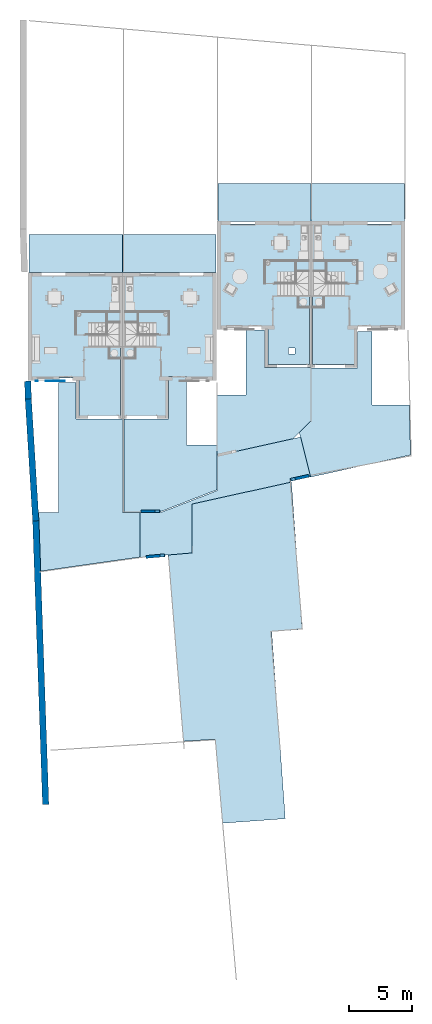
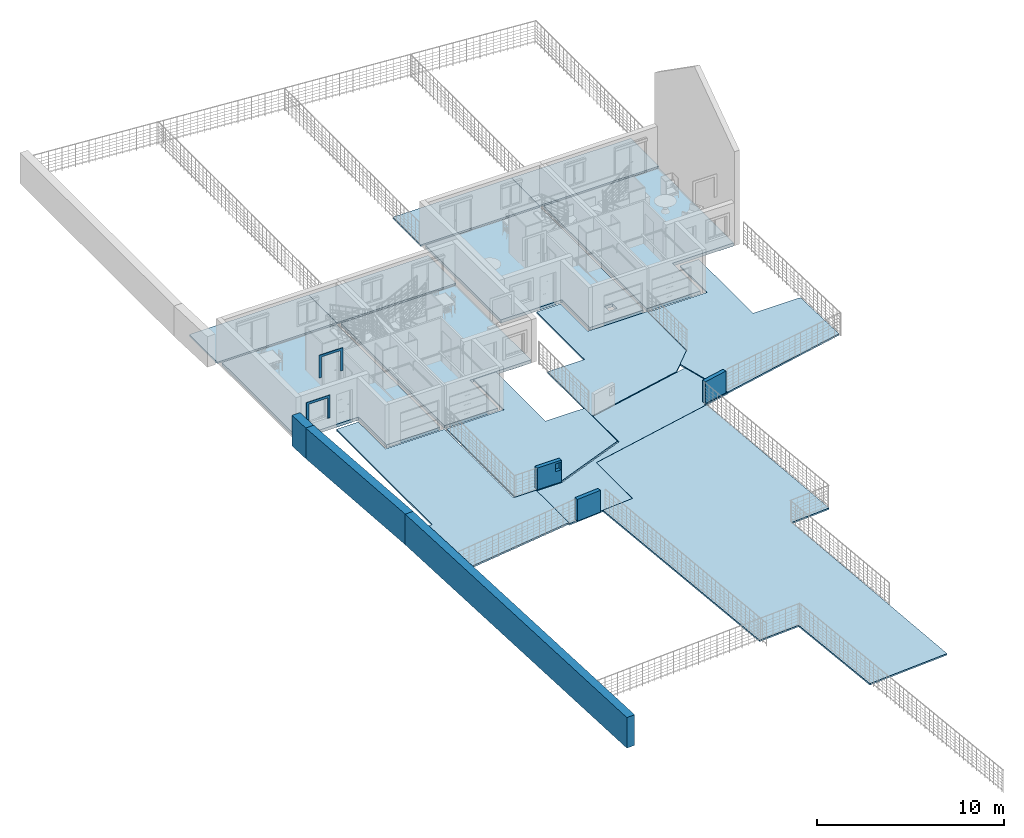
# One storey, part 1 of 30: 14 slabs, 8 walls, 6 openings.
"""IFC2X3 building model written with IfcOpenShell, lengths in metres."""

from ifc_helpers import new_model, entity, si_unit, converted_unit, derived_unit, direction, frame, frame_2d, origin, place, context, subcontext, project, spatial, polyline, rectangle, outline, extrude, clip, halfspace, material, layer, layer_set, layer_usage, type_object, element, save


model = new_model("IFC2X3")

# Units and contexts
model_context = context("Model", 3, precision=1e-05, world=origin(), true_north=direction((6.12303176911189e-17, 1.0)))
body_context = subcontext(model_context, "Body", "Model", "MODEL_VIEW")
ifc_project = project(units=[si_unit("LENGTHUNIT", "METRE"), si_unit("AREAUNIT", "SQUARE_METRE"), si_unit("VOLUMEUNIT", "CUBIC_METRE"), converted_unit("PLANEANGLEUNIT", "DEGREE", entity("IfcRatioMeasure", 0.0174532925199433), si_unit("PLANEANGLEUNIT", "RADIAN"), dimensions=[0, 0, 0, 0, 0, 0, 0]), si_unit("MASSUNIT", "GRAM", prefix="KILO"), derived_unit("MASSDENSITYUNIT", [(si_unit("MASSUNIT", "GRAM", prefix="KILO"), 1), (si_unit("LENGTHUNIT", "METRE"), -3)]), si_unit("TIMEUNIT", "SECOND"), si_unit("FREQUENCYUNIT", "HERTZ"), si_unit("THERMODYNAMICTEMPERATUREUNIT", "DEGREE_CELSIUS"), derived_unit("THERMALTRANSMITTANCEUNIT", [(si_unit("MASSUNIT", "GRAM", prefix="KILO"), 1), (si_unit("THERMODYNAMICTEMPERATUREUNIT", "KELVIN"), -1), (si_unit("TIMEUNIT", "SECOND"), -3)]), derived_unit("VOLUMETRICFLOWRATEUNIT", [(si_unit("LENGTHUNIT", "METRE"), 3), (si_unit("TIMEUNIT", "SECOND"), -1)]), si_unit("ELECTRICCURRENTUNIT", "AMPERE"), si_unit("ELECTRICVOLTAGEUNIT", "VOLT"), si_unit("POWERUNIT", "WATT"), si_unit("FORCEUNIT", "NEWTON", prefix="KILO"), si_unit("ILLUMINANCEUNIT", "LUX"), si_unit("LUMINOUSFLUXUNIT", "LUMEN"), si_unit("LUMINOUSINTENSITYUNIT", "CANDELA"), derived_unit("USERDEFINED", [(si_unit("MASSUNIT", "GRAM", prefix="KILO"), -1), (si_unit("LENGTHUNIT", "METRE"), -2), (si_unit("TIMEUNIT", "SECOND"), 3), (si_unit("LUMINOUSFLUXUNIT", "LUMEN"), 1)]), derived_unit("LINEARVELOCITYUNIT", [(si_unit("LENGTHUNIT", "METRE"), 1), (si_unit("TIMEUNIT", "SECOND"), -1)]), si_unit("PRESSUREUNIT", "PASCAL"), derived_unit("USERDEFINED", [(si_unit("LENGTHUNIT", "METRE"), -2), (si_unit("MASSUNIT", "GRAM", prefix="KILO"), 1), (si_unit("TIMEUNIT", "SECOND"), -2)])], contexts=[model_context])

# Site, building, storey
site_placement = place(None, origin())
site = spatial("IfcSite", under=ifc_project, at=site_placement, Name="Surface", CompositionType="ELEMENT")
building_placement = place(site_placement, origin())
building = spatial("IfcBuilding", under=site, at=building_placement, CompositionType="ELEMENT")
storey_placement = place(building_placement, origin())
storey = spatial("IfcBuildingStorey", under=building, at=storey_placement, Name="Plan des fondations  Maisons 1 et 2", CompositionType="ELEMENT", Elevation=0.0)

# Slabs
ifc_material_1 = material(Name="Métal")
ifc_layer_1 = layer(ifc_material_1, 0.1)
ifc_layer_set_1 = layer_set([ifc_layer_1], Name="Sol:Dalle Béton butume rouge - 10 cm")
ifc_layer_usage_1 = layer_usage(ifc_layer_set_1, "AXIS3", "POSITIVE", 0.0)
slab_type_1 = type_object("IfcSlabType", Name="Sol:Dalle Béton butume rouge - 10 cm", PredefinedType="FLOOR", material=ifc_layer_set_1)
slab_1_placement = place(building_placement, origin())
element("IfcSlab", 1, at=slab_1_placement, inside=storey, type_object=slab_type_1, material=ifc_layer_usage_1, Name="Sol:Dalle Béton butume rouge - 10 cm", ObjectType="Sol:Dalle Béton butume rouge - 10 cm", PredefinedType="FLOOR", context=body_context, shape_type="SweptSolid", body=[
    extrude(outline(polyline([(0.499009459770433, -5.37009377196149), (1.65900945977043, -5.37009377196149), (1.65900945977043, 0.439117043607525), (4.59437844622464, 0.439117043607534), (4.69450325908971, 4.39368824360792), (-3.1929661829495, 6.14229812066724), (-4.10116022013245, 2.60595914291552), (-3.15539657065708, 1.66019549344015), (-3.15539657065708, -2.47009377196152), (0.499009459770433, -2.47009377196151), (0.499009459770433, -5.37009377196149)])), frame((86.8921823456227, 78.4074301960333, 0.0), z_axis=(0.0, 0.0, -1.0), x_axis=(1.0, 0.0, 0.0)), (0.0, 0.0, 1.0), 0.1),
])
ifc_layer_usage_2 = layer_usage(ifc_layer_set_1, "AXIS3", "POSITIVE", 0.0)
slab_type_2 = type_object("IfcSlabType", Name="Sol:Dalle Béton butume rouge - 10 cm", PredefinedType="FLOOR", material=ifc_layer_set_1)
slab_2_placement = place(building_placement, origin())
element("IfcSlab", 2, at=slab_2_placement, inside=storey, type_object=slab_type_2, material=ifc_layer_usage_2, Name="Sol:Dalle Béton butume rouge - 10 cm", ObjectType="Sol:Dalle Béton butume rouge - 10 cm", PredefinedType="FLOOR", context=body_context, shape_type="SweptSolid", body=[
    extrude(outline(polyline([(-5.2659995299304, -3.65647938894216), (-0.491503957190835, -3.65647938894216), (-0.491503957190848, -1.37647938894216), (4.64326333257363, -1.37647938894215), (4.64326333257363, 0.103520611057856), (1.70381980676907, 0.103520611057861), (1.70381980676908, 3.76352061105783), (-2.50673666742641, 3.76352061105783), (-3.93842216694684, 2.3318351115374), (-5.2659995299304, -3.65647938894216)])), frame((79.9532651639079, 79.2342606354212, 0.0), z_axis=(0.0, 0.0, -1.0), x_axis=(0.0, 1.0, 0.0)), (0.0, 0.0, 1.0), 0.1),
])
ifc_layer_usage_3 = layer_usage(ifc_layer_set_1, "AXIS3", "POSITIVE", 0.0)
slab_type_3 = type_object("IfcSlabType", Name="Sol:Dalle Béton butume rouge - 10 cm", PredefinedType="FLOOR", material=ifc_layer_set_1)
slab_3_placement = place(building_placement, origin())
element("IfcSlab", 3, at=slab_3_placement, inside=storey, type_object=slab_type_3, material=ifc_layer_usage_3, Name="Sol:Dalle Béton butume rouge - 10 cm", ObjectType="Sol:Dalle Béton butume rouge - 10 cm", PredefinedType="FLOOR", context=body_context, shape_type="SweptSolid", body=[
    extrude(outline(polyline([(-5.41427827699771, -3.81797535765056), (1.96194066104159, -3.81797535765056), (1.96194066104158, -0.27513476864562), (5.3319406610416, -0.275134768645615), (5.3319406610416, 1.12486523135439), (-0.0730593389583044, 1.12486523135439), (-0.0730593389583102, 3.52702464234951), (-3.61308741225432, 3.5270246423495), (-5.41427827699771, -1.11755949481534), (-5.41427827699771, -3.81797535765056)])), frame((72.7697611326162, 74.8758160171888, 0.0), z_axis=(0.0, 0.0, -1.0), x_axis=(0.0, 1.0, 0.0)), (0.0, 0.0, 1.0), 0.1),
])
ifc_layer_usage_4 = layer_usage(ifc_layer_set_1, "AXIS3", "POSITIVE", 0.0)
slab_type_4 = type_object("IfcSlabType", Name="Sol:Dalle Béton butume rouge - 10 cm", PredefinedType="FLOOR", material=ifc_layer_set_1)
slab_4_placement = place(building_placement, origin())
element("IfcSlab", 4, at=slab_4_placement, inside=storey, type_object=slab_type_4, material=ifc_layer_usage_4, Name="Sol:Dalle Béton butume rouge - 10 cm", ObjectType="Sol:Dalle Béton butume rouge - 10 cm", PredefinedType="FLOOR", context=body_context, shape_type="SweptSolid", body=[
    extrude(outline(polyline([(-7.39710097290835, -4.02010814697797), (-2.70371891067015, -4.02010814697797), (-2.70371891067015, -2.20010814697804), (7.55651379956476, -2.20010814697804), (7.55651379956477, -0.831845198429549), (4.6615137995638, -0.831845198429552), (4.66151379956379, 2.82603074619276), (-2.70371891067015, 2.82603074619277), (-2.70371891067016, 4.22603074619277), (-6.2240785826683, 4.22603074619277), (-7.39710097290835, -4.02010814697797)])), frame((66.0064715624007, 72.181242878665, 0.0), z_axis=(0.0, 0.0, -1.0), x_axis=(0.0, 1.0, 0.0)), (0.0, 0.0, 1.0), 0.1),
])
ifc_layer_usage_5 = layer_usage(ifc_layer_set_1, "AXIS3", "POSITIVE", 0.0)
slab_type_5 = type_object("IfcSlabType", Name="Sol:Dalle Béton butume rouge - 10 cm", PredefinedType="FLOOR", material=ifc_layer_set_1)
slab_5_placement = place(storey_placement, origin())
element("IfcSlab", 5, at=slab_5_placement, inside=storey, type_object=slab_type_5, material=ifc_layer_usage_5, Name="Sol:Dalle Béton butume rouge - 10 cm", ObjectType="Sol:Dalle Béton butume rouge - 10 cm", PredefinedType="FLOOR", context=body_context, shape_type="SweptSolid", body=[
    extrude(rectangle(XDim=2.99999999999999, YDim=7.37826294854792, at=frame_2d((8.65973959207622e-15, 0.0), x_axis=(1.0, 0.0))), frame((72.5287578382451, 89.9077566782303, -0.05), z_axis=(0.0, 0.0, -1.0), x_axis=(0.0, 1.0, 0.0)), (0.0, 0.0, 1.0), 0.1),
])
ifc_layer_usage_6 = layer_usage(ifc_layer_set_1, "AXIS3", "POSITIVE", 0.0)
slab_type_6 = type_object("IfcSlabType", Name="Sol:Dalle Béton butume rouge - 10 cm", PredefinedType="FLOOR", material=ifc_layer_set_1)
slab_6_placement = place(storey_placement, origin())
element("IfcSlab", 6, at=slab_6_placement, inside=storey, type_object=slab_type_6, material=ifc_layer_usage_6, Name="Sol:Dalle Béton butume rouge - 10 cm", ObjectType="Sol:Dalle Béton butume rouge - 10 cm", PredefinedType="FLOOR", context=body_context, shape_type="SweptSolid", body=[
    extrude(rectangle(XDim=2.99999999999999, YDim=7.37826294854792, at=frame_2d((-8.65973959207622e-15, 0.0), x_axis=(1.0, 0.0))), frame((65.1404948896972, 89.9077566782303, -0.05), z_axis=(0.0, 0.0, -1.0), x_axis=(0.0, 1.0, 0.0)), (0.0, 0.0, 1.0), 0.1),
])
ifc_material_2 = material(Name="Béton")
ifc_layer_2 = layer(ifc_material_2, 0.1)
ifc_layer_set_2 = layer_set([ifc_layer_2], Name="Sol:Dalle Béton - 10 cm")
ifc_layer_usage_7 = layer_usage(ifc_layer_set_2, "AXIS3", "POSITIVE", 0.0)
slab_type_7 = type_object("IfcSlabType", Name="Sol:Dalle Béton - 10 cm", PredefinedType="FLOOR", material=ifc_layer_set_2)
slab_7_placement = place(building_placement, origin())
element("IfcSlab", 7, at=slab_7_placement, inside=storey, type_object=slab_type_7, material=ifc_layer_usage_7, Name="Sol:Dalle Béton - 10 cm", ObjectType="Sol:Dalle Béton - 10 cm", PredefinedType="FLOOR", context=body_context, shape_type="SweptSolid", body=[
    extrude(outline(polyline([(-12.7059232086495, -5.61026625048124), (-1.04546583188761, -5.61026625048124), (-1.04546583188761, -3.20435196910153), (13.7545341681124, -3.20435196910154), (13.7545341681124, 1.79439519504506), (7.10663217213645, 1.89356418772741), (7.08329743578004, 4.40740677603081), (-7.66859266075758, 4.53716997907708), (-7.69760998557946, 2.59196184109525), (-11.5359404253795, 2.40473846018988), (-12.7059232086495, -5.61026625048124)])), frame((77.506552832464, 58.7968482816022, -0.05), z_axis=(0.0, 0.0, -1.0), x_axis=(0.0722871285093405, -0.997383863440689, 0.0)), (0.0, 0.0, 1.0), 0.1),
])
ifc_layer_usage_8 = layer_usage(ifc_layer_set_1, "AXIS3", "POSITIVE", 0.0)
slab_type_8 = type_object("IfcSlabType", Name="Sol:Dalle Béton butume rouge - 10 cm", PredefinedType="FLOOR", material=ifc_layer_set_1)
slab_8_placement = place(storey_placement, origin())
element("IfcSlab", 8, at=slab_8_placement, inside=storey, type_object=slab_type_8, material=ifc_layer_usage_8, Name="Sol:Dalle Béton butume rouge - 10 cm", ObjectType="Sol:Dalle Béton butume rouge - 10 cm", PredefinedType="FLOOR", context=body_context, shape_type="SweptSolid", body=[
    extrude(rectangle(XDim=2.99999999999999, YDim=7.37826294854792, at=frame_2d((-8.65973959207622e-15, 8.65973959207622e-15), x_axis=(1.0, 0.0))), frame((87.4009172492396, 93.9475239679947, -0.05), z_axis=(0.0, 0.0, -1.0), x_axis=(0.0, 1.0, 0.0)), (0.0, 0.0, 1.0), 0.1),
])
ifc_layer_usage_9 = layer_usage(ifc_layer_set_1, "AXIS3", "POSITIVE", 0.0)
slab_type_9 = type_object("IfcSlabType", Name="Sol:Dalle Béton butume rouge - 10 cm", PredefinedType="FLOOR", material=ifc_layer_set_1)
slab_9_placement = place(building_placement, origin())
element("IfcSlab", 9, at=slab_9_placement, inside=storey, type_object=slab_type_9, material=ifc_layer_usage_9, Name="Sol:Dalle Béton butume rouge - 10 cm", ObjectType="Sol:Dalle Béton butume rouge - 10 cm", PredefinedType="FLOOR", context=body_context, shape_type="SweptSolid", body=[
    extrude(outline(polyline([(-4.80034139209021, -6.54460177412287), (-1.26608503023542, -6.54460177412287), (-1.26608503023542, -4.94460177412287), (0.497862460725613, -0.396054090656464), (3.25564536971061, -0.396054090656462), (4.70579078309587, 6.14512915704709), (1.56238762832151, 6.92886758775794), (1.20018719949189, 5.29508703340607), (1.12662159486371, 5.29508703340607), (-0.576574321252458, -2.41912865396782), (-4.43940926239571, -2.41912865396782), (-4.80034139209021, -6.54460177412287)])), frame((76.7599321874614, 70.7242529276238, -0.05), z_axis=(0.0, 0.0, -1.0), x_axis=(0.0, 1.0, 0.0)), (0.0, 0.0, 1.0), 0.1),
])
ifc_layer_3 = layer(ifc_material_2, 0.2)
ifc_layer_set_3 = layer_set([ifc_layer_3], Name="Sol:Dalle Béton - 20 cm")
ifc_layer_usage_10 = layer_usage(ifc_layer_set_3, "AXIS3", "POSITIVE", 0.0)
slab_type_10 = type_object("IfcSlabType", Name="Sol:Dalle Béton - 20 cm", PredefinedType="FLOOR", material=ifc_layer_set_3)
slab_10_placement = place(building_placement, origin())
element("IfcSlab", 10, at=slab_10_placement, inside=storey, type_object=slab_type_10, material=ifc_layer_usage_10, Name="Sol:Dalle Béton - 20 cm", ObjectType="Sol:Dalle Béton - 20 cm", PredefinedType="FLOOR", context=body_context, shape_type="SweptSolid", body=[
    extrude(outline(polyline([(-4.69333333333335, -3.46608764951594), (6.38666666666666, -3.46608764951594), (6.38666666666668, 3.62717529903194), (-1.69333333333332, 3.62717529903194), (-1.69333333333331, -0.161087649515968), (-4.69333333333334, -0.161087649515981), (-4.69333333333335, -3.46608764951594)])), frame((87.3078734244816, 85.8408573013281, 0.02), z_axis=(0.0, 0.0, -1.0), x_axis=(0.0, 1.0, 0.0)), (0.0, 0.0, 1.0), 0.2),
])
ifc_layer_usage_11 = layer_usage(ifc_layer_set_3, "AXIS3", "POSITIVE", 0.0)
slab_type_11 = type_object("IfcSlabType", Name="Sol:Dalle Béton - 20 cm", PredefinedType="FLOOR", material=ifc_layer_set_3)
slab_11_placement = place(storey_placement, origin())
element("IfcSlab", 11, at=slab_11_placement, inside=storey, type_object=slab_type_11, material=ifc_layer_usage_11, Name="Sol:Dalle Béton - 20 cm", ObjectType="Sol:Dalle Béton - 20 cm", PredefinedType="FLOOR", context=body_context, shape_type="SweptSolid", body=[
    extrude(outline(polyline([(-4.69333333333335, -3.46608764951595), (6.38666666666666, -3.46608764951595), (6.38666666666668, 3.62717529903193), (-1.69333333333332, 3.62717529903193), (-1.69333333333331, -0.161087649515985), (-4.69333333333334, -0.161087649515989), (-4.69333333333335, -3.46608764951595)])), frame((72.4357140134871, 81.8010900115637, 0.02), z_axis=(0.0, 0.0, -1.0), x_axis=(0.0, 1.0, 0.0)), (0.0, 0.0, 1.0), 0.2),
])
ifc_layer_usage_12 = layer_usage(ifc_layer_set_3, "AXIS3", "POSITIVE", 0.0)
slab_type_12 = type_object("IfcSlabType", Name="Sol:Dalle Béton - 20 cm", PredefinedType="FLOOR", material=ifc_layer_set_3)
slab_12_placement = place(storey_placement, origin())
element("IfcSlab", 12, at=slab_12_placement, inside=storey, type_object=slab_type_12, material=ifc_layer_usage_12, Name="Sol:Dalle Béton - 20 cm", ObjectType="Sol:Dalle Béton - 20 cm", PredefinedType="FLOOR", context=body_context, shape_type="SweptSolid", body=[
    extrude(outline(polyline([(-1.69333333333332, -3.62717529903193), (6.38666666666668, -3.62717529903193), (6.38666666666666, 3.46608764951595), (-4.69333333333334, 3.46608764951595), (-4.69333333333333, 0.161087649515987), (-1.69333333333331, 0.161087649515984), (-1.69333333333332, -3.62717529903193)])), frame((65.2335387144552, 81.8010900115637, 0.02), z_axis=(0.0, 0.0, -1.0), x_axis=(0.0, 1.0, 0.0)), (0.0, 0.0, 1.0), 0.2),
])
ifc_layer_usage_13 = layer_usage(ifc_layer_set_1, "AXIS3", "POSITIVE", 0.0)
slab_type_13 = type_object("IfcSlabType", Name="Sol:Dalle Béton butume rouge - 10 cm", PredefinedType="FLOOR", material=ifc_layer_set_1)
slab_13_placement = place(storey_placement, origin())
element("IfcSlab", 13, at=slab_13_placement, inside=storey, type_object=slab_type_13, material=ifc_layer_usage_13, Name="Sol:Dalle Béton butume rouge - 10 cm", ObjectType="Sol:Dalle Béton butume rouge - 10 cm", PredefinedType="FLOOR", context=body_context, shape_type="SweptSolid", body=[
    extrude(rectangle(XDim=2.99999999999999, YDim=7.37826294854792, at=frame_2d((-8.65973959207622e-15, -8.65973959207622e-15), x_axis=(1.0, 0.0))), frame((80.0568874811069, 93.9475239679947, -0.05), z_axis=(0.0, 0.0, -1.0), x_axis=(0.0, 1.0, 0.0)), (0.0, 0.0, 1.0), 0.1),
])

# Slab, opening
ifc_layer_usage_14 = layer_usage(ifc_layer_set_3, "AXIS3", "POSITIVE", 0.0)
slab_type_14 = type_object("IfcSlabType", Name="Sol:Dalle Béton - 20 cm", PredefinedType="FLOOR", material=ifc_layer_set_3)
slab_14_placement = place(storey_placement, frame((76.5227560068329, 81.1475239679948, -0.18)))
slab_14 = element("IfcSlab", 14, at=slab_14_placement, inside=storey, type_object=slab_type_14, material=ifc_layer_usage_14, Name="Sol:Dalle Béton - 20 cm", ObjectType="Sol:Dalle Béton - 20 cm", PredefinedType="FLOOR", context=body_context, shape_type="SweptSolid", body=[
    extrude(outline(polyline([(-3.54663147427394, 5.54000000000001), (-3.54663147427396, -5.54000000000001), (-0.241631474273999, -5.54000000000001), (-0.241631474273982, -2.53999999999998), (3.54663147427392, -2.53999999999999), (3.54663147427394, 5.54000000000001), (-3.54663147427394, 5.54000000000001)])), frame((3.54663147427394, 5.54000000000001, 0.2), z_axis=(0.0, 0.0, -1.0), x_axis=(-1.0, 0.0, 0.0)), (0.0, 0.0, 1.0), 0.2),
])
opening_1_placement = place(storey_placement, frame((76.5227560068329, 81.1475239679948, -0.18)))
element("IfcOpeningElement", 15, at=opening_1_placement, cuts=slab_14, ObjectType="Opening", context=body_context, shape_type="SweptSolid", body=[
    extrude(rectangle(XDim=0.500000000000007, YDim=0.500000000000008, at=frame_2d((-2.14457800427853, -4.46496540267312), x_axis=(0.0, -1.0))), frame((3.54663147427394, 5.54000000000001, 0.2), z_axis=(0.0, 0.0, -1.0), x_axis=(-1.0, 0.0, 0.0)), (0.0, 0.0, 1.0), 0.2),
])

# Wall, opening
ifc_material_3 = material(Name="Enduit blanc cassé")
ifc_layer_4 = layer(ifc_material_3, 0.01)
ifc_material_4 = material(Name="Parpaing")
ifc_layer_5 = layer(ifc_material_4, 0.01)
ifc_layer_6 = layer(ifc_material_3, 0.01)
ifc_layer_set_4 = layer_set([ifc_layer_4, ifc_layer_5, ifc_layer_6], Name="Mur de base:modénateurs ep 2 cm gris")
ifc_layer_usage_15 = layer_usage(ifc_layer_set_4, "AXIS2", "POSITIVE", -0.015)
wall_type_1 = type_object("IfcWallType", Name="Mur de base:modénateurs ep 2 cm gris", PredefinedType="STANDARD", material=ifc_layer_set_4)
wall_1_placement = place(storey_placement, frame((63.4913634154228, 79.8677566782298, 0.799999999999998), z_axis=(0.0, 0.0, 1.0), x_axis=(-1.0, 0.0, 0.0)))
wall_1 = element("IfcWallStandardCase", 16, at=wall_1_placement, inside=storey, type_object=wall_type_1, material=ifc_layer_usage_15, Name="Mur de base:modénateurs ep 2 cm gris", ObjectType="Mur de base:modénateurs ep 2 cm gris", context=body_context, shape_type="SweptSolid", body=[
    extrude(rectangle(XDim=1.47499999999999, YDim=0.0299999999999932, at=frame_2d((0.737499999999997, 3.8068506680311e-15), x_axis=(-1.0, 0.0))), origin(), (0.0, 0.0, 1.0), 1.48912543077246),
])
opening_2_placement = place(wall_1_placement, origin())
element("IfcOpeningElement", 17, at=opening_2_placement, cuts=wall_1, Name="Mur de base:modénateurs ep 2 cm gris", ObjectType="Opening", context=body_context, shape_type="SweptSolid", body=[
    extrude(rectangle(XDim=1.33912543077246, YDim=1.17499999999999, at=frame_2d((0.0, 0.0), x_axis=(0.0, 1.0))), frame((0.737499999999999, 0.0149999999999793, 0.669562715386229), z_axis=(0.0, -1.0, 0.0), x_axis=(1.0, 0.0, 0.0)), (0.0, 0.0, 1.0), 0.03),
])

ifc_layer_usage_16 = layer_usage(ifc_layer_set_4, "AXIS2", "POSITIVE", -0.015)
wall_2_placement = place(storey_placement, frame((64.2847800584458, 79.8677566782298, 3.62087456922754), z_axis=(0.0, 0.0, 1.0), x_axis=(-1.0, 0.0, 0.0)))
wall_2 = element("IfcWallStandardCase", 18, at=wall_2_placement, inside=storey, type_object=wall_type_1, material=ifc_layer_usage_16, Name="Mur de base:modénateurs ep 2 cm gris", ObjectType="Mur de base:modénateurs ep 2 cm gris", context=body_context, shape_type="Clipping", body=[
    clip(extrude(rectangle(XDim=1.47499999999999, YDim=0.0299999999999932, at=frame_2d((0.737499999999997, 3.8068506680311e-15), x_axis=(-1.0, 0.0))), origin(), (0.0, 0.0, 1.0), 1.48912543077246), halfspace(frame((1.475, -0.0149999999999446, 0.0), z_axis=(0.0, 0.0, -1.0), x_axis=(0.0, 1.0, 0.0)), False)),
])
opening_3_placement = place(wall_2_placement, origin())
element("IfcOpeningElement", 19, at=opening_3_placement, cuts=wall_2, Name="Mur de base:modénateurs ep 2 cm gris", ObjectType="Opening", context=body_context, shape_type="SweptSolid", body=[
    extrude(rectangle(XDim=1.33912543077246, YDim=1.17499999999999, at=frame_2d((0.0, 2.77555756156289e-16), x_axis=(0.0, 1.0))), frame((0.737499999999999, 0.0150000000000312, 0.669562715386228), z_axis=(0.0, -1.0, 0.0), x_axis=(1.0, 0.0, 0.0)), (0.0, 0.0, 1.0), 0.03),
])

ifc_material_5 = material(Name="Enduit blanc cassé2")
ifc_layer_7 = layer(ifc_material_5, 0.015)
ifc_layer_8 = layer(ifc_material_4, 0.2)
ifc_layer_9 = layer(ifc_material_5, 0.015)
ifc_layer_set_5 = layer_set([ifc_layer_7, ifc_layer_8, ifc_layer_9], Name="Mur de base:Ext. Parpaing 20 + 2 x 1.5")
ifc_layer_usage_17 = layer_usage(ifc_layer_set_5, "AXIS2", "NEGATIVE", 0.115)
wall_type_2 = type_object("IfcWallType", Name="Mur de base:Ext. Parpaing 20 + 2 x 1.5", PredefinedType="STANDARD", material=ifc_layer_set_5)
wall_3_placement = place(storey_placement, frame((70.3036977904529, 69.576537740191, 0.0)))
wall_3 = element("IfcWallStandardCase", 20, at=wall_3_placement, inside=storey, type_object=wall_type_2, material=ifc_layer_usage_17, Name="Mur de base:Ext. Parpaing 20 + 2 x 1.5", ObjectType="Mur de base:Ext. Parpaing 20 + 2 x 1.5", context=body_context, shape_type="SweptSolid", body=[
    extrude(rectangle(XDim=1.50000000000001, YDim=0.23, at=frame_2d((0.750000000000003, 0.0), x_axis=(-1.0, 0.0))), origin(), (0.0, 0.0, 1.0), 1.41792877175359),
])
opening_4_placement = place(wall_3_placement, origin())
element("IfcOpeningElement", 21, at=opening_4_placement, cuts=wall_3, Name="Mur de base:Ext. Parpaing 20 + 2 x 1.5", ObjectType="Recess", context=body_context, shape_type="SweptSolid", body=[
    extrude(rectangle(XDim=0.500000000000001, YDim=0.349999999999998, at=frame_2d((0.0, 4.32986979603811e-15), x_axis=(1.0, 0.0))), frame((1.28499999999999, -0.115, 1.03740197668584), z_axis=(0.0, 1.0, 0.0), x_axis=(0.0, 0.0, -1.0)), (0.0, 0.0, 1.0), 0.219999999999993),
])

ifc_layer_usage_18 = layer_usage(ifc_layer_set_5, "AXIS2", "NEGATIVE", 0.115)
wall_4_placement = place(storey_placement, frame((83.5606866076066, 72.3760306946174, 0.0), z_axis=(0.0, 0.0, 1.0), x_axis=(-0.976296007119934, -0.216439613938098, 0.0)))
wall_4 = element("IfcWallStandardCase", 22, at=wall_4_placement, inside=storey, type_object=wall_type_2, material=ifc_layer_usage_18, Name="Mur de base:Ext. Parpaing 20 + 2 x 1.5", ObjectType="Mur de base:Ext. Parpaing 20 + 2 x 1.5", context=body_context, shape_type="SweptSolid", body=[
    extrude(rectangle(XDim=1.49999999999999, YDim=0.229999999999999, at=frame_2d((0.749999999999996, 6.45317133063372e-16), x_axis=(-1.0, 0.0))), origin(), (0.0, 0.0, 1.0), 1.41792877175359),
])
opening_5_placement = place(wall_4_placement, origin())
element("IfcOpeningElement", 23, at=opening_5_placement, cuts=wall_4, Name="Mur de base:Ext. Parpaing 20 + 2 x 1.5", ObjectType="Recess", context=body_context, shape_type="SweptSolid", body=[
    extrude(rectangle(XDim=0.500000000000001, YDim=0.350000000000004, at=frame_2d((0.0, -9.39526234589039e-15), x_axis=(1.0, 0.0))), frame((1.28499999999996, -0.114999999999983, 1.03740197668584), z_axis=(0.0, 1.0, 0.0), x_axis=(0.0, 0.0, -1.0)), (0.0, 0.0, 1.0), 0.219999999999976),
])

ifc_layer_usage_19 = layer_usage(ifc_layer_set_5, "AXIS2", "POSITIVE", -0.115)
wall_5_placement = place(storey_placement, frame((70.6940428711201, 65.9657934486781, 0.0), z_axis=(0.0, 0.0, 1.0), x_axis=(0.996194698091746, 0.0871557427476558, 0.0)))
wall_5 = element("IfcWallStandardCase", 24, at=wall_5_placement, inside=storey, type_object=wall_type_2, material=ifc_layer_usage_19, Name="Mur de base:Ext. Parpaing 20 + 2 x 1.5", ObjectType="Mur de base:Ext. Parpaing 20 + 2 x 1.5", context=body_context, shape_type="SweptSolid", body=[
    extrude(rectangle(XDim=1.50000000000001, YDim=0.230000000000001, at=frame_2d((0.750000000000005, 1.03389519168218e-15), x_axis=(-1.0, 0.0))), origin(), (0.0, 0.0, 1.0), 1.41792877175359),
])
opening_6_placement = place(wall_5_placement, origin())
element("IfcOpeningElement", 25, at=opening_6_placement, cuts=wall_5, Name="Mur de base:Ext. Parpaing 20 + 2 x 1.5", ObjectType="Recess", context=body_context, shape_type="SweptSolid", body=[
    extrude(rectangle(XDim=0.500000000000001, YDim=0.35, at=frame_2d((-4.3159920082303e-15, 1.38777878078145e-16), x_axis=(0.0, 1.0))), frame((1.28499999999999, -0.104999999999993, 1.03740197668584), z_axis=(0.0, 1.0, 0.0), x_axis=(1.0, 0.0, 0.0)), (0.0, 0.0, 1.0), 0.219999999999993),
])

# Walls
ifc_material_6 = material(Name="Mur par défaut")
ifc_layer_10 = layer(ifc_material_6, 0.5)
ifc_layer_set_6 = layer_set([ifc_layer_10], Name="Mur de base:Mur exterieure en pierre - Ext. 500 MM")
ifc_layer_usage_20 = layer_usage(ifc_layer_set_6, "AXIS2", "NEGATIVE", 0.25)
wall_type_3 = type_object("IfcWallType", Name="Mur de base:Mur exterieure en pierre - Ext. 500 MM", PredefinedType="STANDARD", material=ifc_layer_set_6)
wall_6_placement = place(storey_placement, frame((61.4102178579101, 78.4481390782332, -0.2), z_axis=(0.0, 0.0, 1.0), x_axis=(0.0614958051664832, -0.998107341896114, 0.0)))
element("IfcWallStandardCase", 26, at=wall_6_placement, inside=storey, type_object=wall_type_3, material=ifc_layer_usage_20, Name="Mur de base:Mur exterieure en pierre - Ext. 500 MM", ObjectType="Mur de base:Mur exterieure en pierre - Ext. 500 MM", context=body_context, shape_type="SweptSolid", body=[
    extrude(outline(polyline([(9.64574522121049, -0.249999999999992), (9.65240262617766, 0.250000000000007), (0.00787208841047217, 0.250000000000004), (0.0, -0.249999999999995), (9.64574522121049, -0.249999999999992)])), origin(), (0.0, 0.0, 1.0), 2.0),
])
ifc_layer_usage_21 = layer_usage(ifc_layer_set_6, "AXIS2", "NEGATIVE", 0.25)
wall_7_placement = place(storey_placement, frame((62.0034792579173, 68.8206542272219, -0.2), z_axis=(0.0, 0.0, 1.0), x_axis=(0.0348994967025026, -0.999390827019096, 0.0)))
element("IfcWallStandardCase", 27, at=wall_7_placement, inside=storey, type_object=wall_type_3, material=ifc_layer_usage_21, Name="Mur de base:Mur exterieure en pierre - Ext. 500 MM", ObjectType="Mur de base:Mur exterieure en pierre - Ext. 500 MM", context=body_context, shape_type="SweptSolid", body=[
    extrude(outline(polyline([(22.4033287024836, -0.250000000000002), (22.4033287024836, 0.250000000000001), (0.0, 0.250000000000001), (0.00665740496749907, -0.250000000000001), (22.4033287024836, -0.250000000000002)])), origin(), (0.0, 0.0, 1.0), 2.0),
])
ifc_layer_usage_22 = layer_usage(ifc_layer_set_6, "AXIS2", "NEGATIVE", 0.25)
wall_8_placement = place(storey_placement, frame((61.368565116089, 79.838012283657, -0.2), z_axis=(0.0, 0.0, 1.0), x_axis=(0.0300443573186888, -0.999548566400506, 0.0)))
element("IfcWallStandardCase", 28, at=wall_8_placement, inside=storey, type_object=wall_type_3, material=ifc_layer_usage_22, Name="Mur de base:Mur exterieure en pierre - Ext. 500 MM", ObjectType="Mur de base:Mur exterieure en pierre - Ext. 500 MM", context=body_context, shape_type="SweptSolid", body=[
    extrude(outline(polyline([(1.398367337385, -0.250000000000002), (1.39049524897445, 0.249999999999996), (0.0, 0.250000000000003), (0.0, -0.249999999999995), (1.398367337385, -0.250000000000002)])), origin(), (0.0, 0.0, 1.0), 2.0),
])

save(model, "model.ifc")
